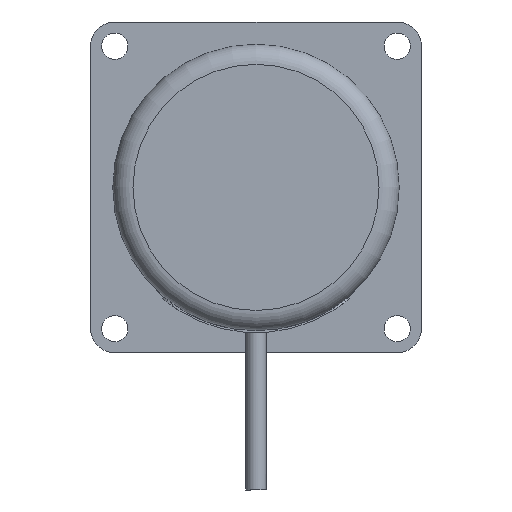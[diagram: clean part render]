
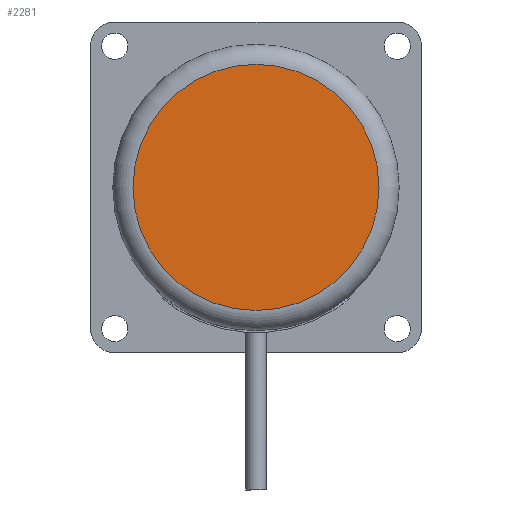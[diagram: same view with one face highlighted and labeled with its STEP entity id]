
A CAD part, left-side view. The second image highlights one B-rep face of the part: STEP entity #2281.
In plain terms, the highlighted planar face has unit normal (-1, 0, 0).
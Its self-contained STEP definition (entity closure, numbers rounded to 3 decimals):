
#503 = CARTESIAN_POINT ( 'NONE',  ( -62., 0., 0. ) ) ;
#785 = CIRCLE ( 'NONE', #885, 30.5 ) ;
#885 = AXIS2_PLACEMENT_3D ( 'NONE', #1538, #5425, #2078 ) ;
#1494 = VERTEX_POINT ( 'NONE', #6774 ) ;
#1538 = CARTESIAN_POINT ( 'NONE',  ( -62., 0., 0. ) ) ;
#1789 = FACE_OUTER_BOUND ( 'NONE', #2427, .T. ) ;
#2078 = DIRECTION ( 'NONE',  ( 0., 0., 1. ) ) ;
#2176 = DIRECTION ( 'NONE',  ( -1., 0., 0. ) ) ;
#2281 = ADVANCED_FACE ( 'NONE', ( #1789 ), #6587, .T. ) ;
#2427 = EDGE_LOOP ( 'NONE', ( #4939 ) ) ;
#2715 = AXIS2_PLACEMENT_3D ( 'NONE', #503, #2176, #6062 ) ;
#3756 = EDGE_CURVE ( 'NONE', #1494, #1494, #785, .T. ) ;
#4939 = ORIENTED_EDGE ( 'NONE', *, *, #3756, .T. ) ;
#5425 = DIRECTION ( 'NONE',  ( -1., 0., 0. ) ) ;
#6062 = DIRECTION ( 'NONE',  ( 0., 0., 1. ) ) ;
#6587 = PLANE ( 'NONE',  #2715 ) ;
#6774 = CARTESIAN_POINT ( 'NONE',  ( -62., 0., 30.5 ) ) ;
